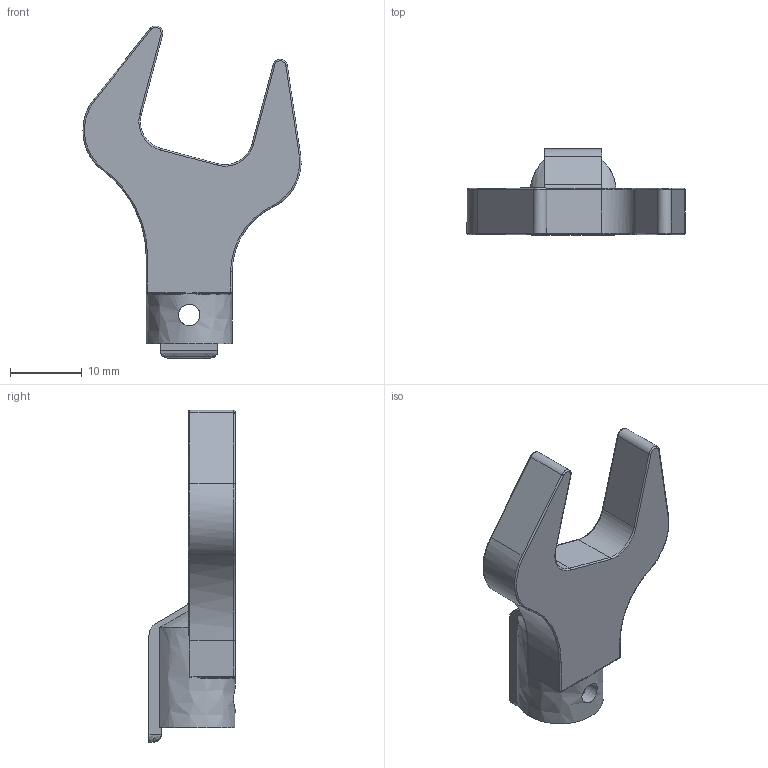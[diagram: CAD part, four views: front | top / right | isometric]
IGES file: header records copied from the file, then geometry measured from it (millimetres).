
Global section: file name: SH8DX16; native system: Autodesk Inventor 2016; preprocessor: unknown; author: Q600; date: 20151029.200101; units: millimetre
Bounding box: 30.42 x 12 x 46.31 mm (x, y, z)
Volume: 4144.3 mm3; surface area: 2581.6 mm2
Topology: 1 solids, 1 shells, 88 faces, 222 edges, 129 vertices
Faces by surface type: bspline 88
